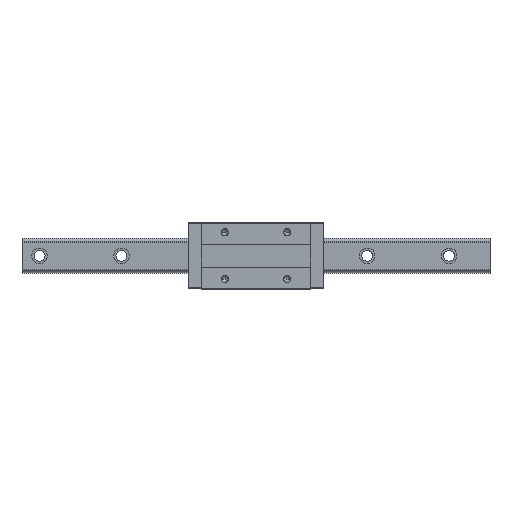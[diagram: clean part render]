
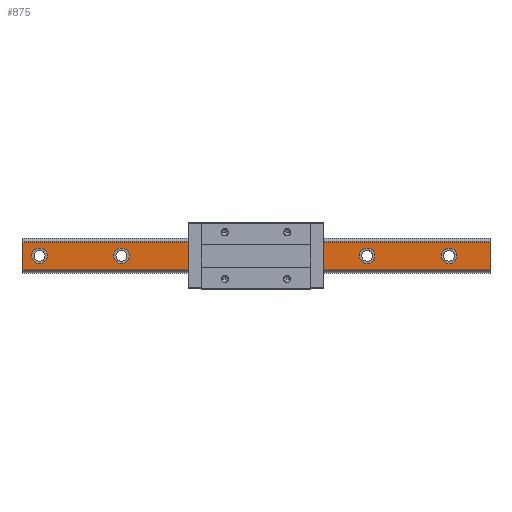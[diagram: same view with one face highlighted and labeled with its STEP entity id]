
A CAD part, top view. The second image highlights one B-rep face of the part: STEP entity #875.
In plain terms, the highlighted planar face has unit normal (0, 0, 1).
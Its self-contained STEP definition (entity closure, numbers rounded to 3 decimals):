
#74 = FACE_BOUND ( 'NONE', #741, .T. ) ;
#88 = EDGE_CURVE ( 'NONE', #3421, #2194, #292, .T. ) ;
#97 = VERTEX_POINT ( 'NONE', #4235 ) ;
#131 = AXIS2_PLACEMENT_3D ( 'NONE', #1117, #2561, #4001 ) ;
#192 = CARTESIAN_POINT ( 'NONE',  ( -162.5, 0., 32. ) ) ;
#197 = EDGE_CURVE ( 'NONE', #3975, #2807, #211, .T. ) ;
#211 = CIRCLE ( 'NONE', #365, 10. ) ;
#257 = DIRECTION ( 'NONE',  ( 0., 0., -1. ) ) ;
#280 = CARTESIAN_POINT ( 'NONE',  ( -182.5, 0., 32. ) ) ;
#292 = CIRCLE ( 'NONE', #501, 10. ) ;
#299 = CIRCLE ( 'NONE', #913, 10. ) ;
#305 = EDGE_LOOP ( 'NONE', ( #4034, #2421, #3189, #4581 ) ) ;
#336 = CIRCLE ( 'NONE', #408, 10. ) ;
#356 = LINE ( 'NONE', #1814, #1068 ) ;
#365 = AXIS2_PLACEMENT_3D ( 'NONE', #2906, #4329, #1098 ) ;
#385 = VERTEX_POINT ( 'NONE', #3995 ) ;
#408 = AXIS2_PLACEMENT_3D ( 'NONE', #3917, #665, #2122 ) ;
#420 = FACE_BOUND ( 'NONE', #3664, .T. ) ;
#430 = CIRCLE ( 'NONE', #3093, 10. ) ;
#487 = DIRECTION ( 'NONE',  ( -1., 0., 0. ) ) ;
#497 = VECTOR ( 'NONE', #805, 1000. ) ;
#501 = AXIS2_PLACEMENT_3D ( 'NONE', #3514, #257, #1713 ) ;
#509 = VERTEX_POINT ( 'NONE', #2667 ) ;
#517 = VECTOR ( 'NONE', #3907, 1000. ) ;
#542 = CARTESIAN_POINT ( 'NONE',  ( 27.5, 0., 32. ) ) ;
#575 = CARTESIAN_POINT ( 'NONE',  ( 300., 17.696, 32. ) ) ;
#624 = AXIS2_PLACEMENT_3D ( 'NONE', #1279, #2731, #4162 ) ;
#665 = DIRECTION ( 'NONE',  ( 0., 0., -1. ) ) ;
#690 = DIRECTION ( 'NONE',  ( 0., -1., 0. ) ) ;
#694 = VERTEX_POINT ( 'NONE', #280 ) ;
#741 = EDGE_LOOP ( 'NONE', ( #2200, #1343 ) ) ;
#770 = AXIS2_PLACEMENT_3D ( 'NONE', #4046, #804, #2249 ) ;
#795 = VERTEX_POINT ( 'NONE', #1465 ) ;
#804 = DIRECTION ( 'NONE',  ( 0., 0., -1. ) ) ;
#805 = DIRECTION ( 'NONE',  ( -1., 0., 0. ) ) ;
#847 = CIRCLE ( 'NONE', #770, 10. ) ;
#851 = CARTESIAN_POINT ( 'NONE',  ( -172.5, 0., 32. ) ) ;
#859 = ORIENTED_EDGE ( 'NONE', *, *, #3188, .T. ) ;
#869 = CARTESIAN_POINT ( 'NONE',  ( -172.5, 0., 32. ) ) ;
#870 = CIRCLE ( 'NONE', #1784, 10. ) ;
#875 = ADVANCED_FACE ( 'NONE', ( #2241, #3690, #420, #1886, #3328, #74, #1532 ), #2974, .F. ) ;
#895 = AXIS2_PLACEMENT_3D ( 'NONE', #4431, #1202, #2648 ) ;
#902 = EDGE_LOOP ( 'NONE', ( #3490, #2453 ) ) ;
#913 = AXIS2_PLACEMENT_3D ( 'NONE', #869, #2316, #3763 ) ;
#967 = CARTESIAN_POINT ( 'NONE',  ( -277.5, 0., 32. ) ) ;
#1013 = CIRCLE ( 'NONE', #624, 10. ) ;
#1019 = LINE ( 'NONE', #2466, #517 ) ;
#1037 = CARTESIAN_POINT ( 'NONE',  ( 237.5, 0., 32. ) ) ;
#1039 = AXIS2_PLACEMENT_3D ( 'NONE', #4398, #1170, #2613 ) ;
#1068 = VECTOR ( 'NONE', #3261, 1000. ) ;
#1098 = DIRECTION ( 'NONE',  ( -1., 0., 0. ) ) ;
#1117 = CARTESIAN_POINT ( 'NONE',  ( 142.5, 0., 32. ) ) ;
#1159 = EDGE_CURVE ( 'NONE', #2076, #2817, #2496, .T. ) ;
#1170 = DIRECTION ( 'NONE',  ( 0., 0., -1. ) ) ;
#1202 = DIRECTION ( 'NONE',  ( 0., 0., -1. ) ) ;
#1279 = CARTESIAN_POINT ( 'NONE',  ( 247.5, 0., 32. ) ) ;
#1318 = CARTESIAN_POINT ( 'NONE',  ( 47.5, 0., 32. ) ) ;
#1343 = ORIENTED_EDGE ( 'NONE', *, *, #1852, .T. ) ;
#1465 = CARTESIAN_POINT ( 'NONE',  ( -287.5, 0., 32. ) ) ;
#1468 = ORIENTED_EDGE ( 'NONE', *, *, #3725, .T. ) ;
#1513 = AXIS2_PLACEMENT_3D ( 'NONE', #851, #2298, #3743 ) ;
#1532 = FACE_OUTER_BOUND ( 'NONE', #305, .T. ) ;
#1584 = CIRCLE ( 'NONE', #131, 10. ) ;
#1609 = ORIENTED_EDGE ( 'NONE', *, *, #3853, .T. ) ;
#1635 = CARTESIAN_POINT ( 'NONE',  ( 142.5, 0., 32. ) ) ;
#1642 = EDGE_CURVE ( 'NONE', #2194, #3421, #870, .T. ) ;
#1713 = DIRECTION ( 'NONE',  ( -1., 0., 0. ) ) ;
#1784 = AXIS2_PLACEMENT_3D ( 'NONE', #2313, #3760, #487 ) ;
#1807 = EDGE_LOOP ( 'NONE', ( #4406, #3087 ) ) ;
#1814 = CARTESIAN_POINT ( 'NONE',  ( -300., 0., 32. ) ) ;
#1852 = EDGE_CURVE ( 'NONE', #795, #97, #336, .T. ) ;
#1886 = FACE_BOUND ( 'NONE', #1807, .T. ) ;
#2013 = CARTESIAN_POINT ( 'NONE',  ( 300., -17.696, 32. ) ) ;
#2076 = VERTEX_POINT ( 'NONE', #575 ) ;
#2107 = CARTESIAN_POINT ( 'NONE',  ( 132.5, 0., 32. ) ) ;
#2122 = DIRECTION ( 'NONE',  ( -1., 0., 0. ) ) ;
#2194 = VERTEX_POINT ( 'NONE', #3558 ) ;
#2200 = ORIENTED_EDGE ( 'NONE', *, *, #3559, .T. ) ;
#2234 = CARTESIAN_POINT ( 'NONE',  ( -300., -17.696, 32. ) ) ;
#2241 = FACE_BOUND ( 'NONE', #902, .T. ) ;
#2249 = DIRECTION ( 'NONE',  ( -1., 0., 0. ) ) ;
#2298 = DIRECTION ( 'NONE',  ( 0., 0., -1. ) ) ;
#2313 = CARTESIAN_POINT ( 'NONE',  ( -67.5, 0., 32. ) ) ;
#2316 = DIRECTION ( 'NONE',  ( 0., 0., -1. ) ) ;
#2354 = EDGE_CURVE ( 'NONE', #385, #2922, #1013, .T. ) ;
#2419 = DIRECTION ( 'NONE',  ( 0., 0., -1. ) ) ;
#2421 = ORIENTED_EDGE ( 'NONE', *, *, #3784, .T. ) ;
#2426 = ORIENTED_EDGE ( 'NONE', *, *, #3515, .T. ) ;
#2453 = ORIENTED_EDGE ( 'NONE', *, *, #3097, .T. ) ;
#2466 = CARTESIAN_POINT ( 'NONE',  ( 300., -17.696, 32. ) ) ;
#2495 = EDGE_CURVE ( 'NONE', #2639, #2817, #1019, .T. ) ;
#2496 = LINE ( 'NONE', #3934, #3839 ) ;
#2561 = DIRECTION ( 'NONE',  ( 0., 0., -1. ) ) ;
#2602 = LINE ( 'NONE', #4048, #497 ) ;
#2613 = DIRECTION ( 'NONE',  ( 0., -1., 0. ) ) ;
#2639 = VERTEX_POINT ( 'NONE', #2234 ) ;
#2648 = DIRECTION ( 'NONE',  ( -1., 0., 0. ) ) ;
#2667 = CARTESIAN_POINT ( 'NONE',  ( -300., 17.696, 32. ) ) ;
#2731 = DIRECTION ( 'NONE',  ( 0., 0., -1. ) ) ;
#2807 = VERTEX_POINT ( 'NONE', #542 ) ;
#2817 = VERTEX_POINT ( 'NONE', #2013 ) ;
#2858 = ORIENTED_EDGE ( 'NONE', *, *, #197, .T. ) ;
#2906 = CARTESIAN_POINT ( 'NONE',  ( 37.5, 0., 32. ) ) ;
#2922 = VERTEX_POINT ( 'NONE', #1037 ) ;
#2946 = CIRCLE ( 'NONE', #3549, 10. ) ;
#2950 = CIRCLE ( 'NONE', #895, 10. ) ;
#2962 = EDGE_LOOP ( 'NONE', ( #2426, #1468 ) ) ;
#2974 = PLANE ( 'NONE',  #1039 ) ;
#3078 = DIRECTION ( 'NONE',  ( 0., 0., -1. ) ) ;
#3087 = ORIENTED_EDGE ( 'NONE', *, *, #1642, .T. ) ;
#3093 = AXIS2_PLACEMENT_3D ( 'NONE', #967, #2419, #3860 ) ;
#3097 = EDGE_CURVE ( 'NONE', #2922, #385, #847, .T. ) ;
#3188 = EDGE_CURVE ( 'NONE', #694, #4353, #299, .T. ) ;
#3189 = ORIENTED_EDGE ( 'NONE', *, *, #4545, .T. ) ;
#3261 = DIRECTION ( 'NONE',  ( 0., -1., 0. ) ) ;
#3328 = FACE_BOUND ( 'NONE', #4325, .T. ) ;
#3421 = VERTEX_POINT ( 'NONE', #3728 ) ;
#3490 = ORIENTED_EDGE ( 'NONE', *, *, #2354, .T. ) ;
#3514 = CARTESIAN_POINT ( 'NONE',  ( -67.5, 0., 32. ) ) ;
#3515 = EDGE_CURVE ( 'NONE', #4538, #3609, #2946, .T. ) ;
#3549 = AXIS2_PLACEMENT_3D ( 'NONE', #1635, #3078, #4504 ) ;
#3553 = CIRCLE ( 'NONE', #1513, 10. ) ;
#3558 = CARTESIAN_POINT ( 'NONE',  ( -77.5, 0., 32. ) ) ;
#3559 = EDGE_CURVE ( 'NONE', #97, #795, #430, .T. ) ;
#3609 = VERTEX_POINT ( 'NONE', #2107 ) ;
#3616 = CARTESIAN_POINT ( 'NONE',  ( 152.5, 0., 32. ) ) ;
#3664 = EDGE_LOOP ( 'NONE', ( #2858, #3926 ) ) ;
#3690 = FACE_BOUND ( 'NONE', #2962, .T. ) ;
#3725 = EDGE_CURVE ( 'NONE', #3609, #4538, #1584, .T. ) ;
#3728 = CARTESIAN_POINT ( 'NONE',  ( -57.5, 0., 32. ) ) ;
#3743 = DIRECTION ( 'NONE',  ( -1., 0., 0. ) ) ;
#3760 = DIRECTION ( 'NONE',  ( 0., 0., -1. ) ) ;
#3763 = DIRECTION ( 'NONE',  ( -1., 0., 0. ) ) ;
#3784 = EDGE_CURVE ( 'NONE', #2076, #509, #2602, .T. ) ;
#3823 = EDGE_CURVE ( 'NONE', #2807, #3975, #2950, .T. ) ;
#3839 = VECTOR ( 'NONE', #690, 1000. ) ;
#3853 = EDGE_CURVE ( 'NONE', #4353, #694, #3553, .T. ) ;
#3860 = DIRECTION ( 'NONE',  ( -1., 0., 0. ) ) ;
#3907 = DIRECTION ( 'NONE',  ( 1., 0., 0. ) ) ;
#3917 = CARTESIAN_POINT ( 'NONE',  ( -277.5, 0., 32. ) ) ;
#3926 = ORIENTED_EDGE ( 'NONE', *, *, #3823, .T. ) ;
#3934 = CARTESIAN_POINT ( 'NONE',  ( 300., 18., 32. ) ) ;
#3975 = VERTEX_POINT ( 'NONE', #1318 ) ;
#3995 = CARTESIAN_POINT ( 'NONE',  ( 257.5, 0., 32. ) ) ;
#4001 = DIRECTION ( 'NONE',  ( -1., 0., 0. ) ) ;
#4034 = ORIENTED_EDGE ( 'NONE', *, *, #1159, .F. ) ;
#4046 = CARTESIAN_POINT ( 'NONE',  ( 247.5, 0., 32. ) ) ;
#4048 = CARTESIAN_POINT ( 'NONE',  ( 300., 17.696, 32. ) ) ;
#4162 = DIRECTION ( 'NONE',  ( -1., 0., 0. ) ) ;
#4235 = CARTESIAN_POINT ( 'NONE',  ( -267.5, 0., 32. ) ) ;
#4325 = EDGE_LOOP ( 'NONE', ( #1609, #859 ) ) ;
#4329 = DIRECTION ( 'NONE',  ( 0., 0., -1. ) ) ;
#4353 = VERTEX_POINT ( 'NONE', #192 ) ;
#4398 = CARTESIAN_POINT ( 'NONE',  ( 300., 0., 32. ) ) ;
#4406 = ORIENTED_EDGE ( 'NONE', *, *, #88, .T. ) ;
#4431 = CARTESIAN_POINT ( 'NONE',  ( 37.5, 0., 32. ) ) ;
#4504 = DIRECTION ( 'NONE',  ( -1., 0., 0. ) ) ;
#4538 = VERTEX_POINT ( 'NONE', #3616 ) ;
#4545 = EDGE_CURVE ( 'NONE', #509, #2639, #356, .T. ) ;
#4581 = ORIENTED_EDGE ( 'NONE', *, *, #2495, .T. ) ;
